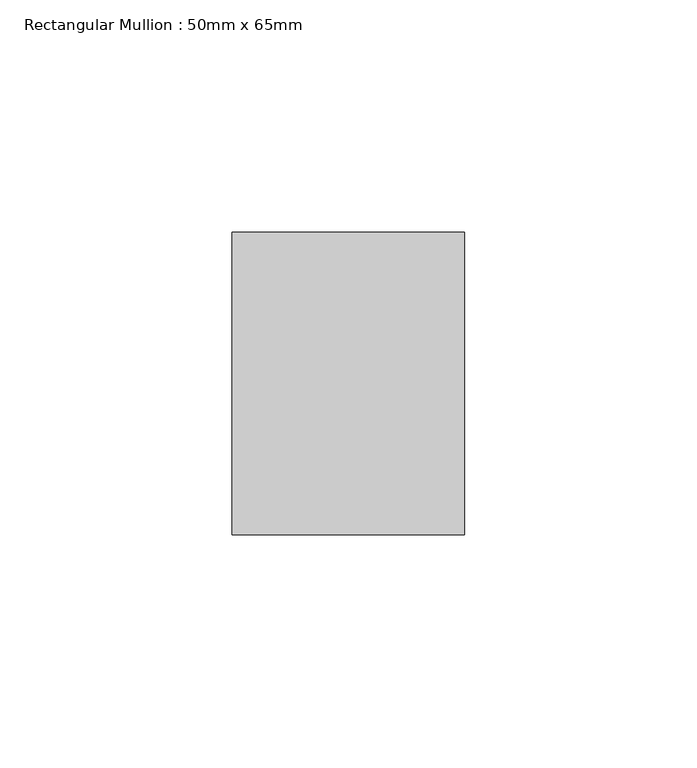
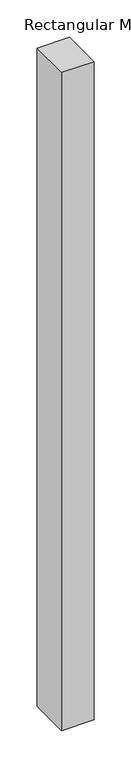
"""IFC4 building model written with IfcOpenShell, lengths in millimetres: member geometry, Rectangular Mullion : 50mm x 65mm."""

from ifc_helpers import new_model, si_unit, frame, origin, place, context, project, spatial, polyline, outline, extrude, source, transform, mapped, element, save


def rectangular_mullion_50mm_x_65mm_56aac8fe(model_context):
    return source(origin(), model_context, "Body", "SweptSolid", [
        extrude(outline(polyline([(0.0, 32.5), (0.0, -32.5), (-50.0, -32.5), (-50.0, 32.5), (0.0, 32.5)])), frame((0.0, 0.0, -1075.0000002), z_axis=(0.0, 0.0, 1.0), x_axis=(1.0, 0.0, 0.0)), (0.0, 0.0, 1.0), 1075.0000002),
    ])


if __name__ == "__main__":
    model = new_model("IFC4")
    model_context = context("Model", 3, world=origin())
    ifc_project = project(units=[si_unit("LENGTHUNIT", "METRE", prefix="MILLI")], contexts=[model_context])
    site = spatial("IfcSite", under=ifc_project)
    building = spatial("IfcBuilding", under=site)
    placement = place(None, origin())
    rectangular_mullion_50mm_x_65mm_shape = rectangular_mullion_50mm_x_65mm_56aac8fe(model_context)
    element("IfcMember", 1, ObjectType="Rectangular Mullion : 50mm x 65mm", at=placement, inside=building, context=model_context, shape_type="MappedRepresentation", body=[
        mapped(rectangular_mullion_50mm_x_65mm_shape, transform((0.0, 0.0, 0.0), x_axis=(1.0, 0.0, 0.0), y_axis=(0.0, 1.0, 0.0), z_axis=(0.0, 0.0, 1.0))),
    ])
    save(model, "model.ifc")
